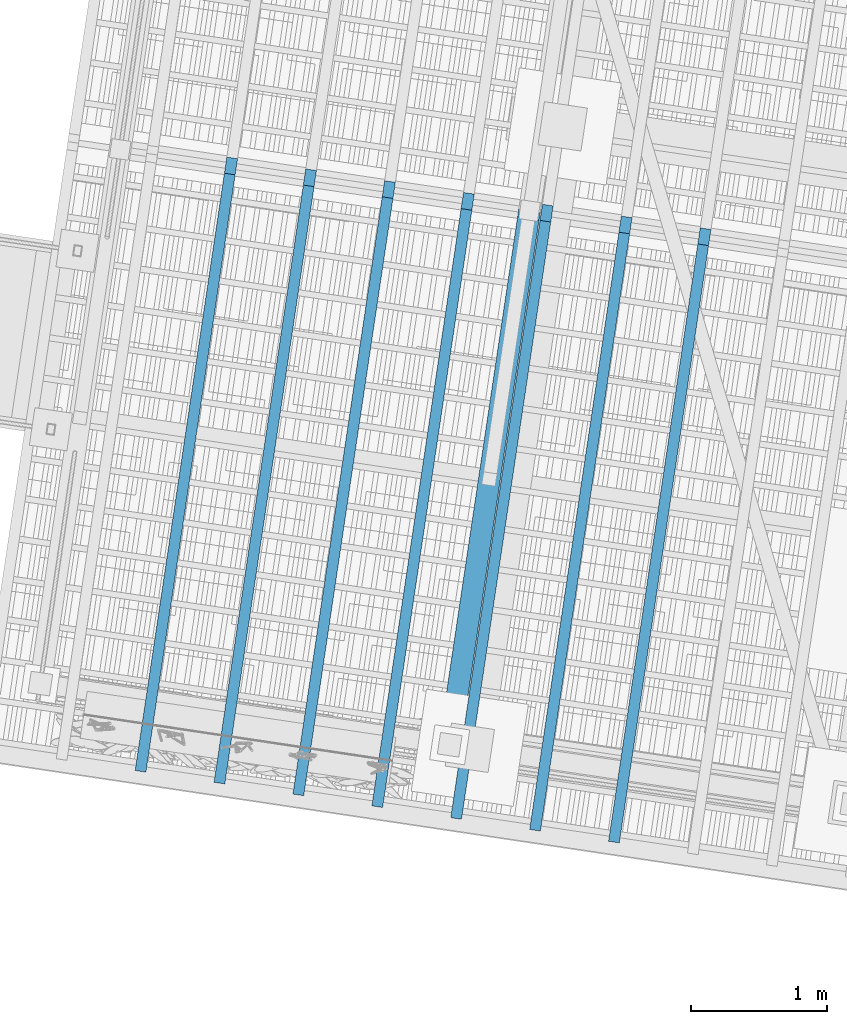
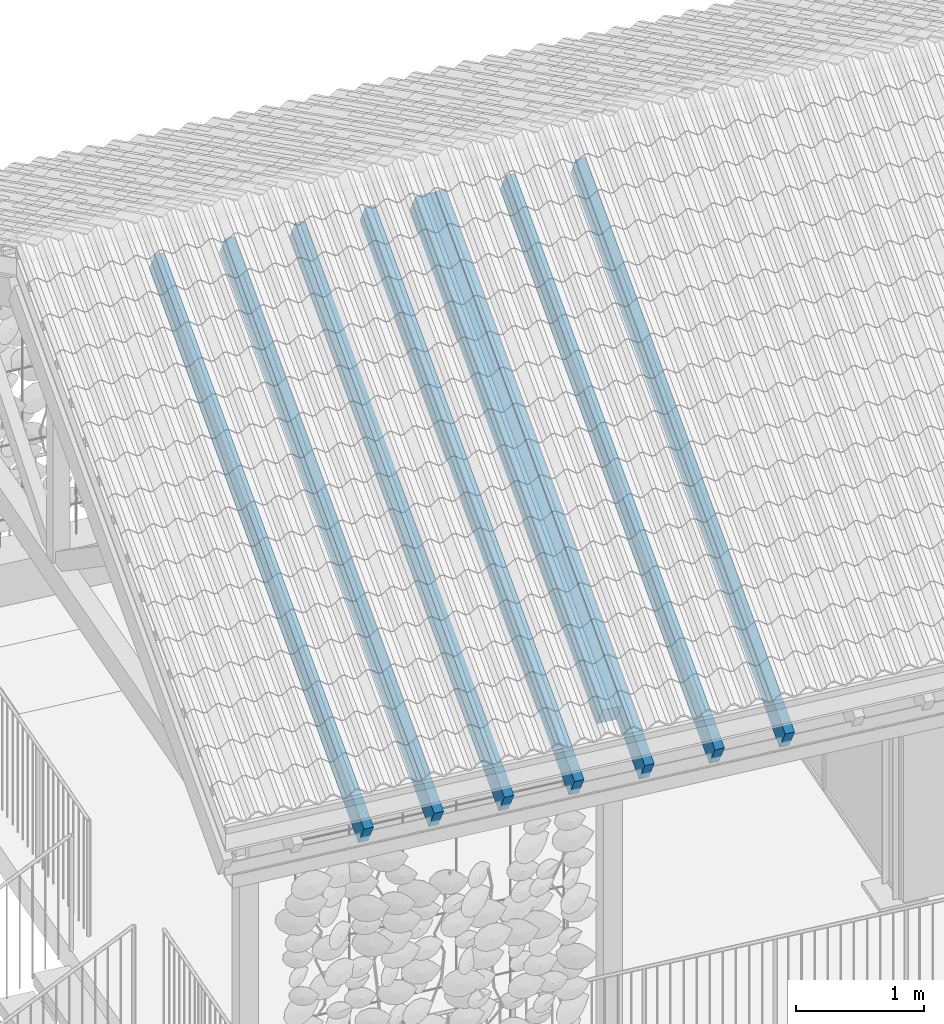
# One storey, part 14 of 131: 8 members, 1 element without a shape of its own.
"""IFC4 building model written with IfcOpenShell, lengths in metres."""

from ifc_helpers import new_model, si_unit, direction, frame, origin_with_axes, place, context, subcontext, project, spatial, rectangle, extrude, material, material_profile, profile_set, profile_usage, type_object, element, aggregate, save


model = new_model("IFC4")

# Units and contexts
model_context = context("Model", 3, precision=1e-05, world=origin_with_axes(), true_north=direction((0.0, 1.0)))
body_context = subcontext(model_context, "Body", "Model", "MODEL_VIEW")
ifc_project = project(units=[si_unit("VOLUMEUNIT", "CUBIC_METRE"), si_unit("LENGTHUNIT", "METRE"), si_unit("AREAUNIT", "SQUARE_METRE")], contexts=[model_context])

# Site, building, storey
site_placement = place(None, origin_with_axes())
site = spatial("IfcSite", under=ifc_project, at=site_placement, Name="Lares · Rua das Mercês · artigo 4771")
building_placement = place(site_placement, frame((15.0, 9.7, 15.8), z_axis=(0.0, 0.0, 1.0), x_axis=(0.989015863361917, -0.147809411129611, 0.0)))
building = spatial("IfcBuilding", under=site, at=building_placement, Name="Casa Sobreposta")
storey_placement = place(building_placement, origin_with_axes())
storey = spatial("IfcBuildingStorey", under=building, at=storey_placement, Name="00 · Habitação e estacionamento", Elevation=15.8)

# Roof, members
ifc_material = material(Name="Madeira / Bauholz", Category="wood")
roof_placement = place(storey_placement, origin_with_axes())
roof = element("IfcRoof", 1, at=roof_placement, inside=storey, material=ifc_material, Name="Cobertura de telha · duas águas 30 graus", PredefinedType="GABLE_ROOF")
ifc_material_profile_1 = material_profile(ifc_material, rectangle(XDim=0.16, YDim=0.24))
ifc_profile_set_1 = profile_set([ifc_material_profile_1], Name="TIMBER0.160x0.240")
ifc_profile_usage_1 = profile_usage(ifc_profile_set_1)
member_type_1 = type_object("IfcMemberType", Name="TIMBER0.160x0.240 / timber", PredefinedType="NOTDEFINED", material=ifc_profile_set_1)
member_1_placement = place(roof_placement, frame((-3.0, -1.43, 3.44635462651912), z_axis=(0.0, 0.866025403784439, 0.5), x_axis=(1.0, 0.0, 0.0)))
member_1 = element("IfcMember", 2, at=member_1_placement, type_object=member_type_1, material=ifc_profile_usage_1, Name="Tesoura · perna", context=body_context, shape_type="SweptSolid", body=[
    extrude(rectangle(XDim=0.16, YDim=0.24), origin_with_axes(), (0.0, 0.0, 1.0), 4.59570814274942),
])
ifc_material_profile_2 = material_profile(ifc_material, rectangle(XDim=0.08, YDim=0.24))
ifc_profile_set_2 = profile_set([ifc_material_profile_2], Name="TIMBER0.080x0.240")
ifc_profile_usage_2 = profile_usage(ifc_profile_set_2)
member_type_2 = type_object("IfcMemberType", Name="TIMBER0.080x0.240 / timber", PredefinedType="NOTDEFINED", material=ifc_profile_set_2)
member_2_placement = place(roof_placement, frame((-5.22424242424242, -1.9, 3.181), z_axis=(0.0, 0.866025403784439, 0.5), x_axis=(1.0, 0.0, 0.0)))
member_2 = element("IfcMember", 3, at=member_2_placement, type_object=member_type_2, material=ifc_profile_usage_2, Name="Cobertura · caibro", context=body_context, shape_type="SweptSolid", body=[
    extrude(rectangle(XDim=0.08, YDim=0.24), origin_with_axes(), (0.0, 0.0, 1.0), 5.13841739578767),
])
ifc_profile_usage_3 = profile_usage(ifc_profile_set_2)
member_3_placement = place(roof_placement, frame((-4.63636363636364, -1.9, 3.181), z_axis=(0.0, 0.866025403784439, 0.5), x_axis=(1.0, 0.0, 0.0)))
member_3 = element("IfcMember", 4, at=member_3_placement, type_object=member_type_2, material=ifc_profile_usage_3, Name="Cobertura · caibro", context=body_context, shape_type="SweptSolid", body=[
    extrude(rectangle(XDim=0.08, YDim=0.24), origin_with_axes(), (0.0, 0.0, 1.0), 5.13841739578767),
])
ifc_profile_usage_4 = profile_usage(ifc_profile_set_2)
member_4_placement = place(roof_placement, frame((-4.04848484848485, -1.9, 3.181), z_axis=(0.0, 0.866025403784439, 0.5), x_axis=(1.0, 0.0, 0.0)))
member_4 = element("IfcMember", 5, at=member_4_placement, type_object=member_type_2, material=ifc_profile_usage_4, Name="Cobertura · caibro", context=body_context, shape_type="SweptSolid", body=[
    extrude(rectangle(XDim=0.08, YDim=0.24), origin_with_axes(), (0.0, 0.0, 1.0), 5.13841739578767),
])
ifc_profile_usage_5 = profile_usage(ifc_profile_set_2)
member_5_placement = place(roof_placement, frame((-3.46060606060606, -1.9, 3.181), z_axis=(0.0, 0.866025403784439, 0.5), x_axis=(1.0, 0.0, 0.0)))
member_5 = element("IfcMember", 6, at=member_5_placement, type_object=member_type_2, material=ifc_profile_usage_5, Name="Cobertura · caibro", context=body_context, shape_type="SweptSolid", body=[
    extrude(rectangle(XDim=0.08, YDim=0.24), origin_with_axes(), (0.0, 0.0, 1.0), 5.13841739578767),
])
ifc_profile_usage_6 = profile_usage(ifc_profile_set_2)
member_6_placement = place(roof_placement, frame((-2.87272727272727, -1.9, 3.181), z_axis=(0.0, 0.866025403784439, 0.5), x_axis=(1.0, 0.0, 0.0)))
member_6 = element("IfcMember", 7, at=member_6_placement, type_object=member_type_2, material=ifc_profile_usage_6, Name="Cobertura · caibro", context=body_context, shape_type="SweptSolid", body=[
    extrude(rectangle(XDim=0.08, YDim=0.24), origin_with_axes(), (0.0, 0.0, 1.0), 5.13841739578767),
])
ifc_profile_usage_7 = profile_usage(ifc_profile_set_2)
member_7_placement = place(roof_placement, frame((-2.28484848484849, -1.9, 3.181), z_axis=(0.0, 0.866025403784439, 0.5), x_axis=(1.0, 0.0, 0.0)))
member_7 = element("IfcMember", 8, at=member_7_placement, type_object=member_type_2, material=ifc_profile_usage_7, Name="Cobertura · caibro", context=body_context, shape_type="SweptSolid", body=[
    extrude(rectangle(XDim=0.08, YDim=0.24), origin_with_axes(), (0.0, 0.0, 1.0), 5.13841739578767),
])
ifc_profile_usage_8 = profile_usage(ifc_profile_set_2)
member_8_placement = place(roof_placement, frame((-1.6969696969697, -1.9, 3.181), z_axis=(0.0, 0.866025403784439, 0.5), x_axis=(1.0, 0.0, 0.0)))
member_8 = element("IfcMember", 9, at=member_8_placement, type_object=member_type_2, material=ifc_profile_usage_8, Name="Cobertura · caibro", context=body_context, shape_type="SweptSolid", body=[
    extrude(rectangle(XDim=0.08, YDim=0.24), origin_with_axes(), (0.0, 0.0, 1.0), 5.13841739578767),
])
aggregate(roof, [member_1, member_2, member_3, member_4, member_5, member_6, member_7, member_8])

save(model, "model.ifc")
